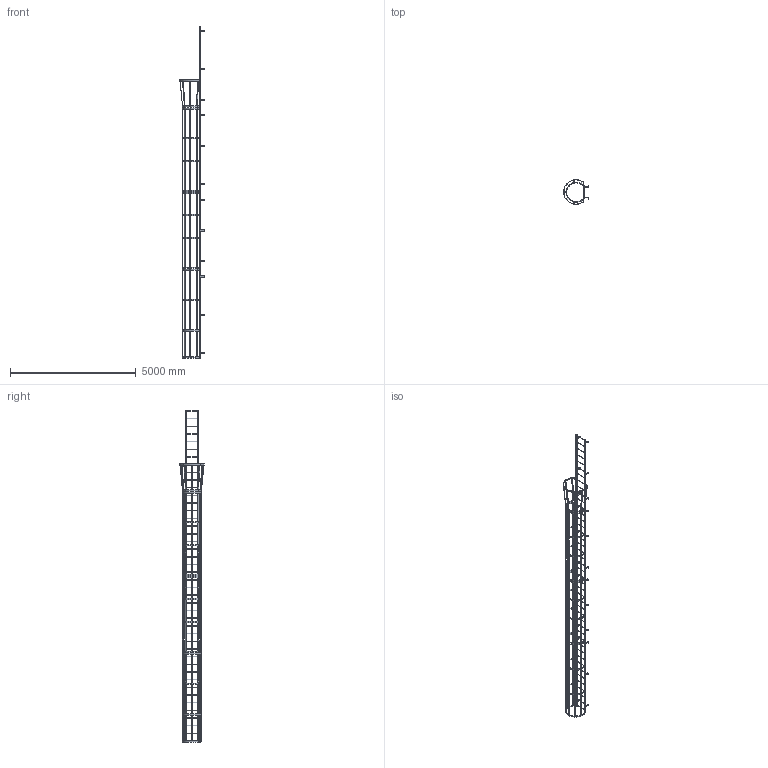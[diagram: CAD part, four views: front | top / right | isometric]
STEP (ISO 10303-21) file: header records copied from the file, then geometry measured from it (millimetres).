
FILE_DESCRIPTION(/* description */ (''),/* implementation_level */ '2;1');
FILE_NAME(/* name */ 'P:\MIKEL & KAREN\3570375 F44SC SIMPLIFIED PART.stp',/* time_stamp */ '2018-07-02T16:12:27-04:00',/* author */ ('stephanie'),/* organization */ (''),/* preprocessor_version */ 'ST-DEVELOPER v16.1',/* originating_system */ 'Autodesk Inventor 2016',/* authorisation */ '');
FILE_SCHEMA (('AUTOMOTIVE_DESIGN { 1 0 10303 214 3 1 1 }'));
Length unit declared in the file: centimetre
Products named in the file (1): 3570375 F44SC SIMPLIFIED PART
Bounding box: 974.15 x 977.88 x 13182.6 mm (x, y, z)
Volume: 46230157.9 mm3; surface area: 16530999.3 mm2
Topology: 58 solids, 58 shells, 1323 faces, 4033 edges, 2614 vertices
Faces by surface type: plane 884, cylinder 439
Full cylindrical faces by diameter (mm): 14.287 x30, 19.05 x44, 22.225 x88
Entity records: 45509 total; most frequent: ORIENTED_EDGE 7732, CARTESIAN_POINT 7573, DIRECTION 7500, EDGE_CURVE 3753, LINE 2654, VECTOR 2654, VERTEX_POINT 2496, AXIS2_PLACEMENT_3D 2423
